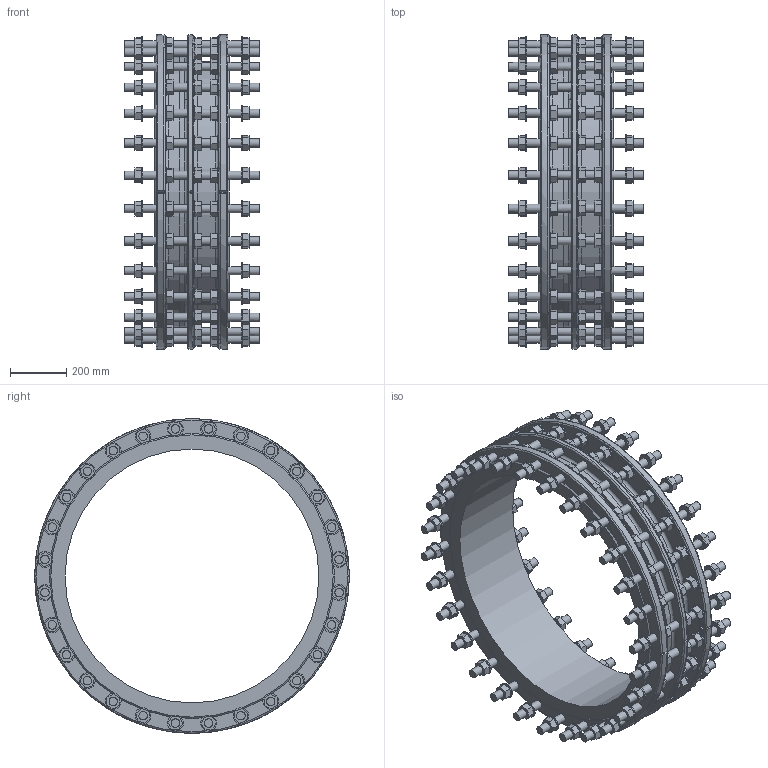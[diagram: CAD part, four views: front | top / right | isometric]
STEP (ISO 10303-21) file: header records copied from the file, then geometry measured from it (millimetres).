
FILE_DESCRIPTION (( 'STEP AP203' ), '1' );
FILE_NAME ('O_265_911_DN900_0XXXXX01_L=265_REV01.step', '2024-12-12T08:29:34', ( '' ), ( '' ), 'SwSTEP 2.0', 'SolidWorks 2022', '' );
FILE_SCHEMA (( 'CONFIG_CONTROL_DESIGN' ));
Length unit declared in the file: millimetre
Products named in the file (1): O_265_911_DN900_0XXXXX01_L=265_REV01
Bounding box: 480 x 1114.97 x 1115 mm (x, y, z)
Volume: 56787657.7 mm3; surface area: 4668901 mm2
Topology: 1 solids, 1 shells, 1710 faces, 4162 edges, 2745 vertices
Faces by surface type: plane 1378, cylinder 320, torus 9, cone 3
Full cylindrical faces by diameter (mm): 30 x168, 56 x140, 900 x1, 926 x2, 966 x1
Entity records: 47778 total; most frequent: CARTESIAN_POINT 9100, DIRECTION 7935, ORIENTED_EDGE 7266, EDGE_CURVE 3633, LINE 2649, VECTOR 2649, AXIS2_PLACEMENT_3D 2643, VERTEX_POINT 2540
